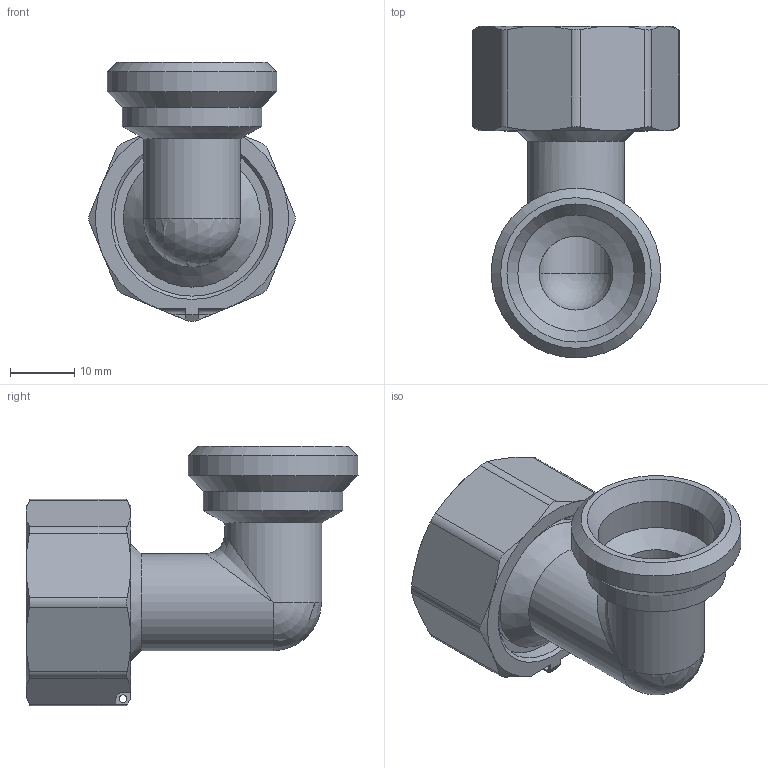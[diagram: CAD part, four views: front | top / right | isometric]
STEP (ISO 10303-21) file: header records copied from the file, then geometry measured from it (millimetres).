
FILE_DESCRIPTION(('STEP AP242'), '1');
FILE_NAME('VTr.092.NE.0505', '', ('UNSPECIFIED'), ('UNSPECIFIED'), 'C3D Converter', 'C3D Toolkit', '');
FILE_SCHEMA(('AP242_MANAGED_MODEL_BASED_3D_ENGINEERING_MIM_LF { 1 0 10303 442 1 1 4 }'));
Length unit declared in the file: millimetre
Products named in the file (1): ВР.494726.002.004 СБ
Bounding box: 32.14 x 51.69 x 40.37 mm (x, y, z)
Volume: 13461 mm3; surface area: 9298.4 mm2
Topology: 1 solids, 1 shells, 75 faces, 184 edges, 110 vertices
Faces by surface type: cone 27, cylinder 24, plane 20, sphere 2, torus 1, bspline 1
Full cylindrical faces by diameter (mm): 1.2 x1, 11.5 x2, 15.1 x2, 18 x2, 18.1 x1, 21.4 x1, 21.7 x1, 22 x1, 24.118 x1, 24.2 x1, 26.441 x1
Entity records: 3422 total; most frequent: CARTESIAN_POINT 1815, ORIENTED_EDGE 310, DIRECTION 304, EDGE_CURVE 155, AXIS2_PLACEMENT_3D 135, VERTEX_POINT 110, EDGE_LOOP 107, FACE_BOUND 77
